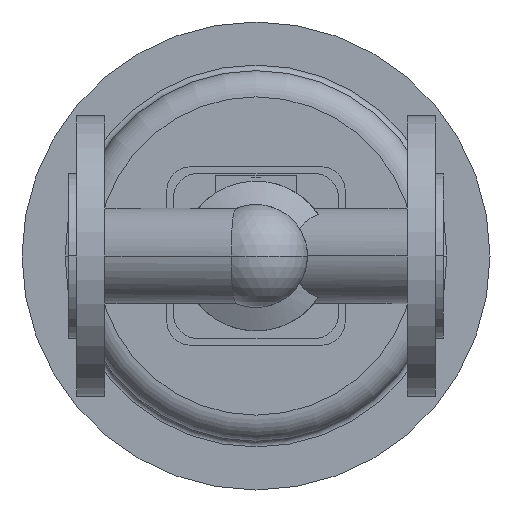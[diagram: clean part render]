
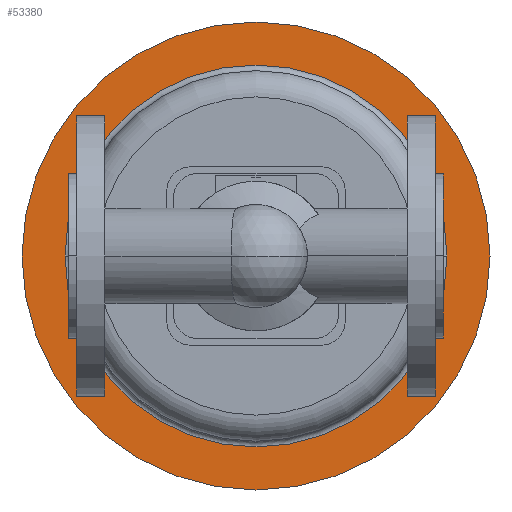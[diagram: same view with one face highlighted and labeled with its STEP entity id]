
A CAD part, front view. The second image highlights one B-rep face of the part: STEP entity #53380.
In plain terms, the highlighted planar face has unit normal (0, -1, 0).
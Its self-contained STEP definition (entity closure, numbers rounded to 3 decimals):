
#52780=CARTESIAN_POINT('',(100.,559.,0.));
#52790=DIRECTION('',(0.,1.,0.));
#52800=DIRECTION('',(1.,0.,0.));
#52810=AXIS2_PLACEMENT_3D('',#52780,#52790,#52800);
#52820=CIRCLE('',#52810,102.);
#52830=CARTESIAN_POINT('',(100.,559.,102.));
#52840=VERTEX_POINT('',#52830);
#52850=CARTESIAN_POINT('',(202.,559.,0.));
#52860=VERTEX_POINT('',#52850);
#52870=EDGE_CURVE('',#52840,#52860,#52820,.T.);
#53030=CARTESIAN_POINT('',(-2.,559.,0.));
#53040=VERTEX_POINT('',#53030);
#53070=EDGE_CURVE('',#53040,#52840,#52820,.T.);
#53120=CARTESIAN_POINT('',(213.5,559.,0.));
#53130=DIRECTION('',(0.,-1.,0.));
#53140=DIRECTION('',(-1.,0.,0.));
#53150=AXIS2_PLACEMENT_3D('',#53120,#53130,#53140);
#53160=PLANE('',#53150);
#53170=CARTESIAN_POINT('',(100.,559.,0.));
#53180=DIRECTION('',(0.,1.,0.));
#53190=DIRECTION('',(1.,0.,0.));
#53200=AXIS2_PLACEMENT_3D('',#53170,#53180,#53190);
#53210=CIRCLE('',#53200,125.);
#53220=CARTESIAN_POINT('',(225.,559.,0.));
#53230=VERTEX_POINT('',#53220);
#53240=CARTESIAN_POINT('',(-25.,559.,0.));
#53250=VERTEX_POINT('',#53240);
#53260=EDGE_CURVE('',#53230,#53250,#53210,.T.);
#53270=ORIENTED_EDGE('',*,*,#53260,.F.);
#53280=EDGE_CURVE('',#53250,#53230,#53210,.T.);
#53290=ORIENTED_EDGE('',*,*,#53280,.F.);
#53300=EDGE_LOOP('',(#53290,#53270));
#53310=FACE_OUTER_BOUND('',#53300,.T.);
#53320=EDGE_CURVE('',#52860,#53040,#52820,.T.);
#53330=ORIENTED_EDGE('',*,*,#53320,.T.);
#53340=ORIENTED_EDGE('',*,*,#52870,.T.);
#53350=ORIENTED_EDGE('',*,*,#53070,.T.);
#53360=EDGE_LOOP('',(#53350,#53340,#53330));
#53370=FACE_BOUND('',#53360,.T.);
#53380=ADVANCED_FACE('',(#53310,#53370),#53160,.T.);
